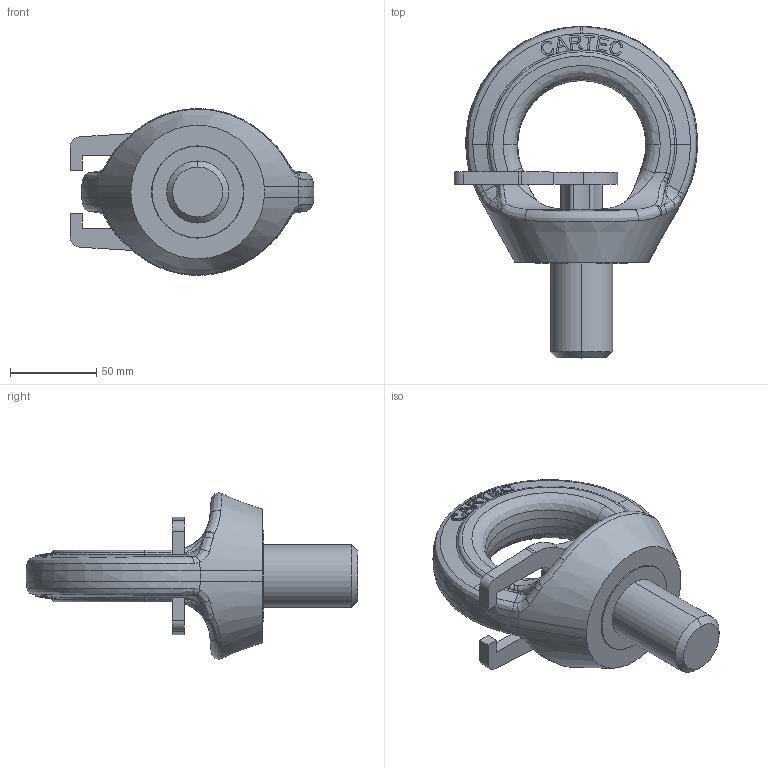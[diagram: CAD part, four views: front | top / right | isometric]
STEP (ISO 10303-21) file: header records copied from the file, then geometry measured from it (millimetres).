
FILE_DESCRIPTION(('STEP AP214'),'1');
FILE_NAME('c807ht36.stp','2017-03-27T13:38:04',('TraceParts'),('TraceParts S.A.'),'Spatial InterOp 3D',' ',' ');
FILE_SCHEMA(('automotive_design'));
Length unit declared in the file: millimetre
Products named in the file (3): c807ht36_1; c807ht36_2; c807ht36_3
Bounding box: 141.38 x 192.37 x 96.55 mm (x, y, z)
Volume: 472133.2 mm3; surface area: 78755.7 mm2
Topology: 3 solids, 3 shells, 393 faces, 1036 edges, 652 vertices
Faces by surface type: bspline 187, plane 130, cylinder 48, cone 14, torus 12, sphere 2
Entity records: 35382 total; most frequent: CARTESIAN_POINT 23664, ORIENTED_EDGE 2044, DIRECTION 1366, EDGE_CURVE 1022, VERTEX_POINT 652, AXIS2_PLACEMENT_3D 490, EDGE_LOOP 414, STYLED_ITEM 396
